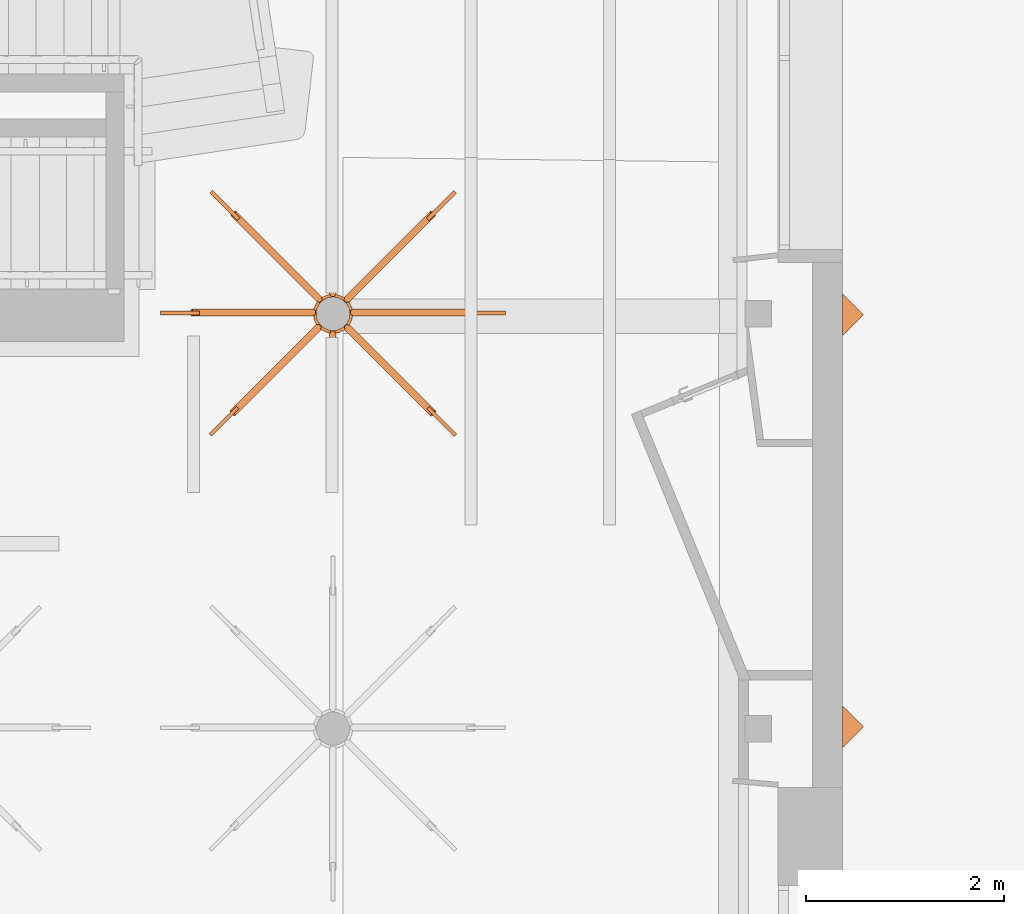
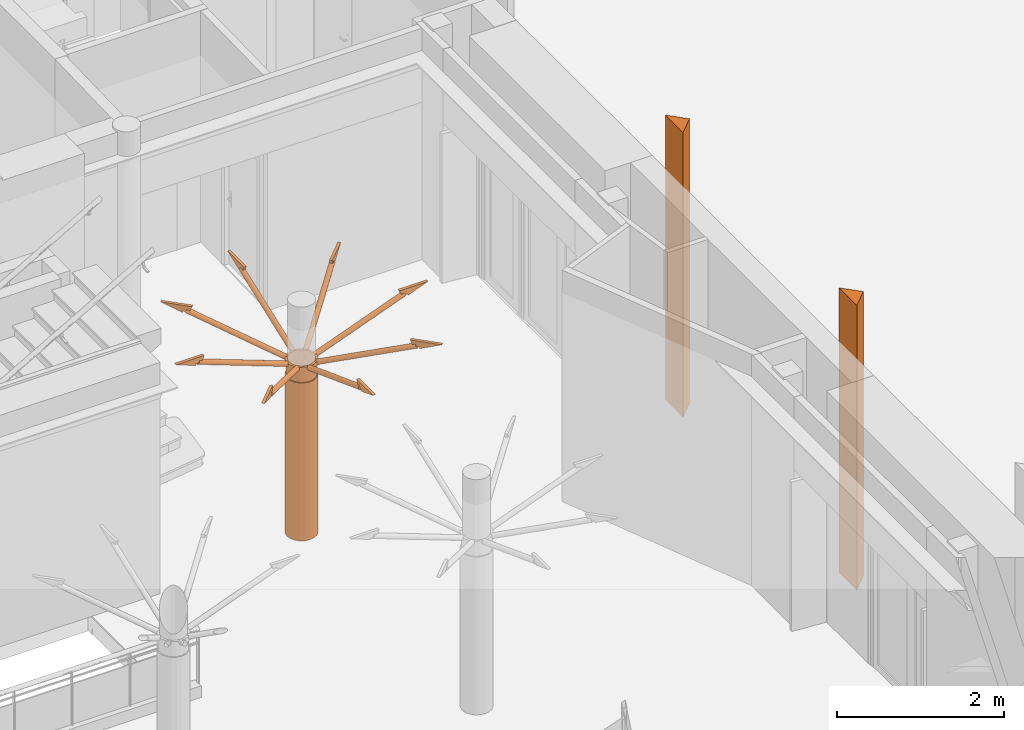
# One storey, part 63 of 65: 3 proxies.
"""IFC4 building model written with IfcOpenShell, lengths in metres."""

from ifc_helpers import new_model, entity, si_unit, converted_unit, derived_unit, direction, frame, origin, place, context, subcontext, project, spatial, indexed_curve, outline, extrude, source, transform, mapped, material, constituent, constituent_set, type_object, type_shapes, element, save


model = new_model("IFC4")

# Units and contexts
model_context = context("Model", 3, precision=1e-05, world=origin(), true_north=direction((6.12303176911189e-17, 1.0)))
body_context = subcontext(model_context, "Body", "Model", "MODEL_VIEW")
ifc_project = project(units=[si_unit("LENGTHUNIT", "METRE"), si_unit("AREAUNIT", "SQUARE_METRE"), si_unit("VOLUMEUNIT", "CUBIC_METRE"), converted_unit("PLANEANGLEUNIT", "DEGREE", entity("IfcRatioMeasure", 0.0174532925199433), si_unit("PLANEANGLEUNIT", "RADIAN"), dimensions=[0, 0, 0, 0, 0, 0, 0]), si_unit("MASSUNIT", "GRAM", prefix="KILO"), derived_unit("MASSDENSITYUNIT", [(si_unit("MASSUNIT", "GRAM", prefix="KILO"), 1), (si_unit("LENGTHUNIT", "METRE"), -3)]), derived_unit("MOMENTOFINERTIAUNIT", [(si_unit("LENGTHUNIT", "METRE"), 4)]), si_unit("TIMEUNIT", "SECOND"), si_unit("FREQUENCYUNIT", "HERTZ"), si_unit("THERMODYNAMICTEMPERATUREUNIT", "DEGREE_CELSIUS"), derived_unit("THERMALTRANSMITTANCEUNIT", [(si_unit("MASSUNIT", "GRAM", prefix="KILO"), 1), (si_unit("THERMODYNAMICTEMPERATUREUNIT", "KELVIN"), -1), (si_unit("TIMEUNIT", "SECOND"), -3)]), derived_unit("VOLUMETRICFLOWRATEUNIT", [(si_unit("LENGTHUNIT", "METRE"), 3), (si_unit("TIMEUNIT", "SECOND"), -1)]), si_unit("ELECTRICCURRENTUNIT", "AMPERE"), si_unit("ELECTRICVOLTAGEUNIT", "VOLT"), si_unit("POWERUNIT", "WATT"), si_unit("FORCEUNIT", "NEWTON", prefix="KILO"), si_unit("ILLUMINANCEUNIT", "LUX"), si_unit("LUMINOUSFLUXUNIT", "LUMEN"), si_unit("LUMINOUSINTENSITYUNIT", "CANDELA"), derived_unit("USERDEFINED", [(si_unit("MASSUNIT", "GRAM", prefix="KILO"), -1), (si_unit("LENGTHUNIT", "METRE"), -2), (si_unit("TIMEUNIT", "SECOND"), 3), (si_unit("LUMINOUSFLUXUNIT", "LUMEN"), 1)]), derived_unit("LINEARVELOCITYUNIT", [(si_unit("LENGTHUNIT", "METRE"), 1), (si_unit("TIMEUNIT", "SECOND"), -1)]), si_unit("PRESSUREUNIT", "PASCAL"), derived_unit("USERDEFINED", [(si_unit("LENGTHUNIT", "METRE"), -2), (si_unit("MASSUNIT", "GRAM", prefix="KILO"), 1), (si_unit("TIMEUNIT", "SECOND"), -2)]), derived_unit("LINEARFORCEUNIT", [(si_unit("MASSUNIT", "GRAM", prefix="KILO"), 1), (si_unit("LENGTHUNIT", "METRE"), 1), (si_unit("TIMEUNIT", "SECOND"), -2), (si_unit("LENGTHUNIT", "METRE"), -1)]), derived_unit("PLANARFORCEUNIT", [(si_unit("MASSUNIT", "GRAM", prefix="KILO"), 1), (si_unit("LENGTHUNIT", "METRE"), 1), (si_unit("TIMEUNIT", "SECOND"), -2), (si_unit("LENGTHUNIT", "METRE"), -2)])], contexts=[model_context])

# Site, building, storey
site_placement = place(None, origin())
site = spatial("IfcSite", under=ifc_project, at=site_placement, Name="Default", CompositionType="ELEMENT")
building_placement = place(site_placement, origin())
building = spatial("IfcBuilding", under=site, at=building_placement, Name="HOTEL CONSULAIRE BOULOGNE SUR MER", CompositionType="ELEMENT")
storey_placement = place(building_placement, origin())
storey = spatial("IfcBuildingStorey", under=building, at=storey_placement, Name="Niveau 0", CompositionType="ELEMENT", Elevation=1.31981936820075e-13)

# Proxies
ifc_material_1 = material(Name="Bronze", Category="Métal")
ifc_constituent_1 = constituent(ifc_material_1, Name="Bronze", Category="Matériaux")
ifc_material_2 = material(Name="Acier, carbone", Category="Métal")
ifc_constituent_2 = constituent(ifc_material_2, Name="Acier, carbone", Category="Matériaux")
ifc_constituent_set = constituent_set(constituents=[ifc_constituent_1, ifc_constituent_2], Name="MaterialConstituentSet")
building_element_proxy_type_1 = type_object("IfcBuildingElementProxyType", Name="Modèles génériques 4:Modèles génériques 1", PredefinedType="NOTDEFINED", material=ifc_material_1)
shared_shape_1 = source(origin(), body_context, "Body", "SweptSolid", [
    extrude(outline(indexed_curve([(-0.277248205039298, -0.059776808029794), (0.115160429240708, -0.059776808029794), (0.0851913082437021, 0.0182954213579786), (0.0431801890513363, 0.00216886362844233), (0.0317934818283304, 0.0318322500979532), (0.00544099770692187, 0.0219587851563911), (-0.00351820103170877, 0.0452982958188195), (-0.277248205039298, -0.059776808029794)], self_intersect=False)), frame((0.713250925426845, 0.701500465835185, 2.99602341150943), z_axis=(-0.70710678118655, 0.707106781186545, 0.0), x_axis=(0.707106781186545, 0.70710678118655, 0.0)), (0.0, 0.0, 1.0), 0.03781952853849),
    extrude(outline(indexed_curve([(0.035, -1.04985600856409e-15), (0.0332869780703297, 0.0108155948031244), (0.028315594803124, 0.0205724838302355), (0.0205724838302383, 0.0283155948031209), (0.0108155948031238, 0.0332869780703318), (1.1197790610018e-15, 0.0350000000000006), (-0.0108155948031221, 0.0332869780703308), (-0.0205724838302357, 0.028315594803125), (-0.0283155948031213, 0.0205724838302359), (-0.0332869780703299, 0.0108155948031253), (-0.0349999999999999, 1.43372394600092e-15), (-0.0332869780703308, -0.0108155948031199), (-0.028315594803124, -0.0205724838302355), (-0.0205724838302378, -0.0283155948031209), (-0.0108155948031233, -0.0332869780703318), (-6.12763902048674e-16, -0.0350000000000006), (0.0108155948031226, -0.0332869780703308), (0.0205724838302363, -0.0283155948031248), (0.0283155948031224, -0.0205724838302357), (0.0332869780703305, -0.0108155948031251), (0.035, -1.04985600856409e-15)], self_intersect=False)), frame((0.728885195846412, 0.739260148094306, 2.98010318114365), z_axis=(0.662156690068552, 0.662156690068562, -0.350851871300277), x_axis=(-0.248089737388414, -0.248089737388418, -0.936430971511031)), (0.0, 0.0, 1.0), 1.32737404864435),
    extrude(outline(indexed_curve([(-0.280255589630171, -0.0435504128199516), (0.0129489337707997, -0.0435504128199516), (0.0129489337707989, -0.0185504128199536), (0.0410894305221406, -0.018324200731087), (0.0410894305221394, 0.0134495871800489), (0.0860894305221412, 0.013449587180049), (0.0860894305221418, 0.0970762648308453), (-0.280255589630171, -0.0435504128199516)], self_intersect=False)), frame((1.7274101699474, 0.277248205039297, 2.99602341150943), z_axis=(1.0, 0.0, 0.0), x_axis=(0.0, 0.933580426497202, -0.358367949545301)), (0.0, 0.0, 1.0), 0.0378195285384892),
    extrude(outline(indexed_curve([(0.0349999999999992, 8.67182975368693e-17), (0.0332869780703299, 0.0108155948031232), (0.0283155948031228, 0.0205724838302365), (0.0205724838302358, 0.0283155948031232), (0.0108155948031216, 0.0332869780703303), (-5.93728164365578e-16, 0.035), (-0.0108155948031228, 0.0332869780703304), (-0.0205724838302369, 0.0283155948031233), (-0.0283155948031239, 0.0205724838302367), (-0.0332869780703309, 0.0108155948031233), (-0.0349999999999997, 1.83998484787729e-16), (-0.0332869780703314, -0.0108155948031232), (-0.0283155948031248, -0.0205724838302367), (-0.0205724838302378, -0.0283155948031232), (-0.0108155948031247, -0.0332869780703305), (-9.27317312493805e-16, -0.0349999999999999), (0.0108155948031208, -0.0332869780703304), (0.0205724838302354, -0.0283155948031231), (0.0283155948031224, -0.0205724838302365), (0.0332869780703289, -0.010815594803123), (0.0349999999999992, 8.67182975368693e-17)], self_intersect=False)), frame((1.74305519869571, 1.5579976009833, 2.51439151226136), z_axis=(0.0, -0.936430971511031, 0.350851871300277), x_axis=(0.0, -0.350851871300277, -0.936430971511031)), (0.0, 0.0, 1.0), 1.32737404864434),
    extrude(outline(indexed_curve([(-0.280255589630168, -0.0435504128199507), (0.0129489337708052, -0.0435504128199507), (0.0129489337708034, -0.0185504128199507), (0.0410894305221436, -0.0183242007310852), (0.0410894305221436, 0.0134495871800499), (0.0860894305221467, 0.0134495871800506), (0.0860894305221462, 0.097076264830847), (-0.280255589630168, -0.0435504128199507)], self_intersect=False)), frame((2.77607438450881, 0.699368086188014, 2.99602341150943), z_axis=(0.707106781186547, 0.707106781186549, 0.0), x_axis=(-0.6601410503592, 0.660141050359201, -0.358367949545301)), (0.0, 0.0, 1.0), 0.03781952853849),
    extrude(outline(indexed_curve([(0.035, -1.04985600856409e-15), (0.033286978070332, 0.0108155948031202), (0.028315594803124, 0.0205724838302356), (0.0205724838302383, 0.028315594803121), (0.0108155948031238, 0.0332869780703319), (1.186400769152e-15, 0.0350000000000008), (-0.0108155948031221, 0.033286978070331), (-0.0205724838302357, 0.028315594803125), (-0.0283155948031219, 0.0205724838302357), (-0.0332869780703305, 0.0108155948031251), (-0.0349999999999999, 1.43372394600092e-15), (-0.0332869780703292, -0.0108155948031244), (-0.0283155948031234, -0.0205724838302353), (-0.0205724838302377, -0.0283155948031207), (-0.0108155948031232, -0.0332869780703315), (-5.45084706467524e-16, -0.0350000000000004), (0.0108155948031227, -0.0332869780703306), (0.0205724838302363, -0.0283155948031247), (0.0283155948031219, -0.0205724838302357), (0.0332869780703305, -0.0108155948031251), (0.035, -1.04985600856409e-15)], self_intersect=False)), frame((1.88151050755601, 1.61605737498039, 2.51439151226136), z_axis=(0.662156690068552, -0.662156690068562, 0.350851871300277), x_axis=(0.248089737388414, -0.248089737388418, -0.936430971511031)), (0.0, 0.0, 1.0), 1.32737404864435),
    extrude(outline(indexed_curve([(-0.277248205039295, -0.0597768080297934), (0.115160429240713, -0.0597768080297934), (0.0851913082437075, 0.0182954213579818), (0.0431801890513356, 0.00216886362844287), (0.031793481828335, 0.0318322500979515), (0.00544099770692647, 0.02195878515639), (-0.00351820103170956, 0.0452982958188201), (-0.277248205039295, -0.0597768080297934)], self_intersect=False)), frame((2.77184292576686, 2.7963210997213, 2.99602341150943), z_axis=(0.707106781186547, -0.707106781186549, 0.0), x_axis=(-0.707106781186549, -0.707106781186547, 0.0)), (0.0, 0.0, 1.0), 0.0378195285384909),
    extrude(outline(indexed_curve([(0.035, 1.16429366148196e-15), (0.03328697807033, 0.0108155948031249), (0.0283155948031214, 0.0205724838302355), (0.0205724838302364, 0.0283155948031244), (0.0108155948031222, 0.0332869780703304), (-1.00451293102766e-15, 0.0350000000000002), (-0.0108155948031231, 0.0332869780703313), (-0.0205724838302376, 0.0283155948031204), (-0.0283155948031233, 0.0205724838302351), (-0.0332869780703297, 0.0108155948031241), (-0.0349999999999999, -1.26052501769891e-15), (-0.03328697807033, -0.0108155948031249), (-0.028315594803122, -0.0205724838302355), (-0.0205724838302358, -0.0283155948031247), (-0.0108155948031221, -0.0332869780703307), (1.10497423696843e-15, -0.0350000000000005), (0.0108155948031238, -0.0332869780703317), (0.0205724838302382, -0.0283155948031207), (0.0283155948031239, -0.0205724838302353), (0.0332869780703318, -0.0108155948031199), (0.035, 1.16429366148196e-15)], self_intersect=False)), frame((1.87727904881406, 1.87963181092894, 2.51439151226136), z_axis=(0.662156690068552, 0.662156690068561, 0.350851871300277), x_axis=(0.248089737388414, 0.248089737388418, -0.936430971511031)), (0.0, 0.0, 1.0), 1.32737404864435),
    extrude(outline(indexed_curve([(-0.277248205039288, -0.0597768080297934), (0.115160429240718, -0.0597768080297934), (0.0851913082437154, 0.0182954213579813), (0.0431801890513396, 0.00216886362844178), (0.0317934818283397, 0.0318322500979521), (0.0054409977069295, 0.0219587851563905), (-0.00351820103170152, 0.045298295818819), (-0.277248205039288, -0.0597768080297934)], self_intersect=False)), frame((1.72741016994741, 3.21418715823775, 2.99602341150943), z_axis=(1.0, 0.0, 0.0), x_axis=(0.0, -1.0, 0.0)), (0.0, 0.0, 1.0), 0.0378195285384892),
    extrude(outline(indexed_curve([(0.0349999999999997, -6.68832189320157e-17), (0.0332869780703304, 0.010815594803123), (0.0283155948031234, 0.0205724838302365), (0.0205724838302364, 0.0283155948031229), (0.0108155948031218, 0.0332869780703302), (6.68779268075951e-17, 0.0349999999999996), (-0.0108155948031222, 0.0332869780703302), (-0.0205724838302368, 0.0283155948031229), (-0.0283155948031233, 0.0205724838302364), (-0.0332869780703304, 0.0108155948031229), (-0.0349999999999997, -2.03833563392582e-16), (-0.0332869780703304, -0.0108155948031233), (-0.0283155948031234, -0.0205724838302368), (-0.0205724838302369, -0.0283155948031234), (-0.0108155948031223, -0.0332869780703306), (-6.68779268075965e-17, -0.0350000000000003), (0.0108155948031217, -0.0332869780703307), (0.0205724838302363, -0.0283155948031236), (0.0283155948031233, -0.0205724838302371), (0.0332869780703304, -0.0108155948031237), (0.0349999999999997, -6.68832189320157e-17)], self_intersect=False)), frame((1.74305519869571, 1.93343776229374, 2.51439151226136), z_axis=(0.0, 0.936430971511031, 0.350851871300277), x_axis=(0.0, 0.350851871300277, -0.936430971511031)), (0.0, 0.0, 1.0), 1.32737404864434),
    extrude(outline(indexed_curve([(-0.277248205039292, -0.059776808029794), (0.115160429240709, -0.059776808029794), (0.0851913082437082, 0.0182954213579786), (0.0431801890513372, 0.00216886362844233), (0.0317934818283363, 0.0318322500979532), (0.005440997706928, 0.0219587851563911), (-0.00351820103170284, 0.0452982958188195), (-0.277248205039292, -0.059776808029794)], self_intersect=False)), frame((0.694971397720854, 2.77170009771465, 2.99602341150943), z_axis=(0.707106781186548, 0.707106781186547, 0.0), x_axis=(0.707106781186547, -0.707106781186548, 0.0)), (0.0, 0.0, 1.0), 0.0378195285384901),
    extrude(outline(indexed_curve([(0.0349999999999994, -1.22011148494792e-15), (0.0332869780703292, 0.0108155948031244), (0.028315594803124, 0.0205724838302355), (0.0205724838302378, 0.0283155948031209), (0.0108155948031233, 0.0332869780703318), (5.94786615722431e-16, 0.0350000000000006), (-0.0108155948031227, 0.0332869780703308), (-0.0205724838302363, 0.0283155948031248), (-0.0283155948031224, 0.0205724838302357), (-0.0332869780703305, 0.0108155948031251), (-0.0350000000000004, 1.22011148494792e-15), (-0.0332869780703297, -0.0108155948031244), (-0.0283155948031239, -0.0205724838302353), (-0.0205724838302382, -0.0283155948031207), (-0.0108155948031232, -0.0332869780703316), (-1.10180177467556e-15, -0.0350000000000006), (0.0108155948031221, -0.0332869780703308), (0.0205724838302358, -0.0283155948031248), (0.0283155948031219, -0.0205724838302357), (0.03328697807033, -0.0108155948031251), (0.0349999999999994, -1.22011148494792e-15)], self_intersect=False)), frame((1.6162777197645, 1.88175325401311, 2.51439151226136), z_axis=(-0.662156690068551, 0.662156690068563, 0.350851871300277), x_axis=(-0.248089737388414, 0.248089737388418, -0.936430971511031)), (0.0, 0.0, 1.0), 1.32737404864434),
    extrude(outline(indexed_curve([(-0.280255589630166, -0.0435504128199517), (0.0129489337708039, -0.0435504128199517), (0.0129489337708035, -0.0185504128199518), (0.0410894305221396, -0.0183242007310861), (0.0410894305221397, 0.0134495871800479), (0.08608943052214, 0.0134495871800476), (0.0860894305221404, 0.0970762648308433), (-0.280255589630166, -0.0435504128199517)], self_intersect=False)), frame((3.21418736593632, 1.73554318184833, 2.99602341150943), z_axis=(0.0, 1.0, 0.0), x_axis=(-0.933580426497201, 0.0, -0.358367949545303)), (0.0, 0.0, 1.0), 0.0378195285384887),
    extrude(outline(indexed_curve([(0.0349999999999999, -4.16541532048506e-17), (0.0332869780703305, 0.0108155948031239), (0.0283155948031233, 0.0205724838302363), (0.0205724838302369, 0.0283155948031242), (0.0108155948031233, 0.0332869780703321), (-5.83659163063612e-18, 0.0350000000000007), (-0.0108155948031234, 0.0332869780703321), (-0.0205724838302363, 0.0283155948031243), (-0.0283155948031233, 0.0205724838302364), (-0.0332869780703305, 0.0108155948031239), (-0.0349999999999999, 4.16541532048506e-17), (-0.0332869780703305, -0.0108155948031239), (-0.0283155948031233, -0.0205724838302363), (-0.0205724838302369, -0.0283155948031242), (-0.0108155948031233, -0.0332869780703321), (5.83659163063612e-18, -0.0350000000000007), (0.0108155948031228, -0.0332869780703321), (0.0205724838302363, -0.0283155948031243), (0.0283155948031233, -0.0205724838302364), (0.0332869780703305, -0.0108155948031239), (0.0349999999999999, -4.16541532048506e-17)], self_intersect=False)), frame((1.93343796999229, 1.75771768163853, 2.51439151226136), z_axis=(0.936430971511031, 0.0, 0.350851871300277), x_axis=(0.350851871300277, 0.0, -0.936430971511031)), (0.0, 0.0, 1.0), 1.32737404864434),
    extrude(outline(indexed_curve([(-0.277248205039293, -0.059776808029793), (0.115160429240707, -0.059776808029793), (0.0851913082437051, 0.0182954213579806), (0.0431801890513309, 0.00216886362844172), (0.0317934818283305, 0.0318322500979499), (0.00544099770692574, 0.0219587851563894), (-0.00351820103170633, 0.0452982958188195), (-0.277248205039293, -0.059776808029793)], self_intersect=False)), frame((0.277248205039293, 1.73554318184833, 2.99602341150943), z_axis=(0.0, 1.0, 0.0), x_axis=(1.0, 0.0, 0.0)), (0.0, 0.0, 1.0), 0.0378195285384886),
    extrude(outline(indexed_curve([(0.0349999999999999, 4.16541532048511e-17), (0.0332869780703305, 0.0108155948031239), (0.0283155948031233, 0.0205724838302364), (0.0205724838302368, 0.0283155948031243), (0.0108155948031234, 0.0332869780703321), (5.33273364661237e-17, 0.0350000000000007), (-0.0108155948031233, 0.0332869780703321), (-0.0205724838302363, 0.0283155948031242), (-0.0283155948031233, 0.0205724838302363), (-0.0332869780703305, 0.0108155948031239), (-0.0349999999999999, -4.16541532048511e-17), (-0.0332869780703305, -0.0108155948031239), (-0.0283155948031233, -0.0205724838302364), (-0.0205724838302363, -0.0283155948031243), (-0.0108155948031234, -0.0332869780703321), (4.16541532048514e-17, -0.0350000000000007), (0.0108155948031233, -0.0332869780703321), (0.0205724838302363, -0.0283155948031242), (0.0283155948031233, -0.0205724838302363), (0.0332869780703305, -0.0108155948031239), (0.0349999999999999, 4.16541532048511e-17)], self_intersect=False)), frame((1.55799760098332, 1.75771768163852, 2.51439151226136), z_axis=(-0.936430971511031, 0.0, 0.350851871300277), x_axis=(-0.350851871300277, 0.0, -0.936430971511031)), (0.0, 0.0, 1.0), 1.32737404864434),
    extrude(outline(indexed_curve([(0.199999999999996, 0.0), (0.190211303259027, 0.0618033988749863), (0.161803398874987, 0.11755705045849), (0.117557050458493, 0.161803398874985), (0.0618033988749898, 0.190211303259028), (2.16573425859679e-15, 0.199999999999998), (-0.0618033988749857, 0.190211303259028), (-0.11755705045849, 0.16180339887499), (-0.161803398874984, 0.117557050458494), (-0.190211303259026, 0.0618033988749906), (-0.199999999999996, 4.33146851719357e-15), (-0.190211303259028, -0.0618033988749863), (-0.161803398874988, -0.11755705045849), (-0.117557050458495, -0.161803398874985), (-0.0618033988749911, -0.190211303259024), (-2.97788460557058e-15, -0.199999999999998), (0.0618033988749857, -0.190211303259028), (0.11755705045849, -0.161803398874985), (0.161803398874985, -0.117557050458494), (0.190211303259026, -0.0618033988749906), (0.199999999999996, 0.0)], self_intersect=False), holes=[indexed_curve([(-0.169999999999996, 0.0), (-0.161679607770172, 0.0525328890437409), (-0.137532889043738, 0.0999234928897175), (-0.0999234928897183, 0.137532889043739), (-0.0525328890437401, 0.161679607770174), (-5.41433564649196e-16, 0.169999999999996), (0.0525328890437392, 0.161679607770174), (0.0999234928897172, 0.137532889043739), (0.137532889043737, 0.0999234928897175), (0.161679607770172, 0.0525328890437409), (0.169999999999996, 0.0), (0.161679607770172, -0.0525328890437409), (0.137532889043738, -0.0999234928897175), (0.0999234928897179, -0.137532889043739), (0.0525328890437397, -0.161679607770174), (0.0, -0.169999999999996), (-0.0525328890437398, -0.161679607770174), (-0.0999234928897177, -0.137532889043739), (-0.137532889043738, -0.0999234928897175), (-0.161679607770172, -0.0525328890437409), (-0.169999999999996, 0.0)], self_intersect=False)]), frame((1.74571778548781, 1.74571768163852, 2.46815840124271)), (0.0, 0.0, 1.0), 0.073394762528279),
    extrude(outline(indexed_curve([(-0.184999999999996, 0.0), (-0.175945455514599, -0.0571681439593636), (-0.149668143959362, -0.108740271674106), (-0.108740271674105, -0.14966814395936), (-0.0571681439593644, -0.175945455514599), (-8.12150346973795e-16, -0.184999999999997), (0.0571681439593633, -0.175945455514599), (0.108740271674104, -0.149668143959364), (0.149668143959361, -0.108740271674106), (0.175945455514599, -0.0571681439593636), (0.184999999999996, 0.0), (0.175945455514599, 0.0571681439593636), (0.149668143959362, 0.108740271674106), (0.108740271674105, 0.14966814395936), (0.057168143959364, 0.175945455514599), (0.0, 0.184999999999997), (-0.0571681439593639, 0.175945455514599), (-0.108740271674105, 0.14966814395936), (-0.149668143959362, 0.108740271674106), (-0.175945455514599, 0.0571681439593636), (-0.184999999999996, 0.0)], self_intersect=False), holes=[indexed_curve([(0.169999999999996, 0.0), (0.161679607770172, -0.0525328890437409), (0.137532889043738, -0.0999234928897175), (0.0999234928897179, -0.137532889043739), (0.0525328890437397, -0.161679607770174), (0.0, -0.169999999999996), (-0.0525328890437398, -0.161679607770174), (-0.0999234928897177, -0.137532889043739), (-0.137532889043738, -0.0999234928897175), (-0.161679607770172, -0.0525328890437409), (-0.169999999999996, 0.0), (-0.161679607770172, 0.0525328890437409), (-0.137532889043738, 0.0999234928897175), (-0.0999234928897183, 0.137532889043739), (-0.0525328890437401, 0.161679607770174), (-5.41433564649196e-16, 0.169999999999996), (0.0525328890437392, 0.161679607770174), (0.0999234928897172, 0.137532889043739), (0.137532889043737, 0.0999234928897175), (0.161679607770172, 0.0525328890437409), (0.169999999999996, 0.0)], self_intersect=False)]), frame((1.74571778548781, 1.74571768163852, 2.31091744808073)), (0.0, 0.0, 1.0), 0.15724095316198),
    extrude(outline(indexed_curve([(0.199999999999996, 0.0), (0.190211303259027, 0.0618033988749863), (0.161803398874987, 0.11755705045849), (0.117557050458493, 0.161803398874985), (0.0618033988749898, 0.190211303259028), (2.16573425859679e-15, 0.199999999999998), (-0.0618033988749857, 0.190211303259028), (-0.11755705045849, 0.16180339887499), (-0.161803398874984, 0.117557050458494), (-0.190211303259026, 0.0618033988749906), (-0.199999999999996, 4.33146851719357e-15), (-0.190211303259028, -0.0618033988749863), (-0.161803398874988, -0.11755705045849), (-0.117557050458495, -0.161803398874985), (-0.0618033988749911, -0.190211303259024), (-2.97788460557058e-15, -0.199999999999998), (0.0618033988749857, -0.190211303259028), (0.11755705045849, -0.161803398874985), (0.161803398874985, -0.117557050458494), (0.190211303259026, -0.0618033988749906), (0.199999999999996, 0.0)], self_intersect=False), holes=[indexed_curve([(-0.169999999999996, 0.0), (-0.161679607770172, 0.0525328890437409), (-0.137532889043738, 0.0999234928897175), (-0.0999234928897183, 0.137532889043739), (-0.0525328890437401, 0.161679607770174), (-5.41433564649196e-16, 0.169999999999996), (0.0525328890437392, 0.161679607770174), (0.0999234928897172, 0.137532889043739), (0.137532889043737, 0.0999234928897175), (0.161679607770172, 0.0525328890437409), (0.169999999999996, 0.0), (0.161679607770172, -0.0525328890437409), (0.137532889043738, -0.0999234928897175), (0.0999234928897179, -0.137532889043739), (0.0525328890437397, -0.161679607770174), (0.0, -0.169999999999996), (-0.0525328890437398, -0.161679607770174), (-0.0999234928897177, -0.137532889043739), (-0.137532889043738, -0.0999234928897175), (-0.161679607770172, -0.0525328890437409), (-0.169999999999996, 0.0)], self_intersect=False)]), frame((1.74571778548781, 1.74571768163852, 0.0)), (0.0, 0.0, 1.0), 2.31091744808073),
])
type_shapes(building_element_proxy_type_1, [shared_shape_1])
proxy_1_placement = place(storey_placement, frame((5.42545898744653, -21.5616274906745, 0.0)))
element("IfcBuildingElementProxy", 1, at=proxy_1_placement, inside=storey, type_object=building_element_proxy_type_1, material=ifc_constituent_set, Name="Modèles génériques 4:Modèles génériques 1", ObjectType="Modèles génériques 4:Modèles génériques 1", PredefinedType="NOTDEFINED", context=body_context, shape_type="MappedRepresentation", body=[
    mapped(shared_shape_1, transform((0.0, 0.0, 0.0), scale=1.0)),
])
ifc_material_3 = material(Name="Finition Peinture - Blanc satiné", Category="Peinture")
building_element_proxy_type_2 = type_object("IfcBuildingElementProxyType", Name="décoration7:décoration", PredefinedType="NOTDEFINED", material=ifc_material_3)
shared_shape_2 = source(origin(), body_context, "Body", "SweptSolid", [
    extrude(outline(indexed_curve([(-0.200958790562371, -0.10047939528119), (0.10047939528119, -0.10047939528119), (0.100479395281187, 0.200958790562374), (-0.200958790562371, -0.10047939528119)], self_intersect=False)), frame((0.0710496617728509, 0.213148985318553, 0.0), z_axis=(0.0, 0.0, 1.0), x_axis=(0.707106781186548, 0.707106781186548, 0.0)), (0.0, 0.0, 1.0), 4.16807531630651),
])
type_shapes(building_element_proxy_type_2, [shared_shape_2])
proxy_2_placement = place(storey_placement, frame((12.3264778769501, -20.0377774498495, 0.0)))
element("IfcBuildingElementProxy", 2, at=proxy_2_placement, inside=storey, type_object=building_element_proxy_type_2, material=ifc_material_3, Name="décoration7:décoration", ObjectType="décoration7:décoration", PredefinedType="NOTDEFINED", context=body_context, shape_type="MappedRepresentation", body=[
    mapped(shared_shape_2, transform((0.0, 0.0, 0.0), scale=1.0)),
])
building_element_proxy_type_3 = type_object("IfcBuildingElementProxyType", Name="décoration8:décoration", PredefinedType="NOTDEFINED", material=ifc_material_3)
shared_shape_3 = source(origin(), body_context, "Body", "SweptSolid", [
    extrude(outline(indexed_curve([(-0.200958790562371, -0.10047939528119), (0.10047939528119, -0.10047939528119), (0.100479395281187, 0.200958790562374), (-0.200958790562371, -0.10047939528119)], self_intersect=False)), frame((0.0710496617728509, 0.213148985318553, 0.0), z_axis=(0.0, 0.0, 1.0), x_axis=(0.707106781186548, 0.707106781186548, 0.0)), (0.0, 0.0, 1.0), 4.16807531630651),
])
type_shapes(building_element_proxy_type_3, [shared_shape_3])
proxy_3_placement = place(storey_placement, frame((12.3264778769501, -24.209040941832, 0.0)))
element("IfcBuildingElementProxy", 3, at=proxy_3_placement, inside=storey, type_object=building_element_proxy_type_3, material=ifc_material_3, Name="décoration8:décoration", ObjectType="décoration8:décoration", PredefinedType="NOTDEFINED", context=body_context, shape_type="MappedRepresentation", body=[
    mapped(shared_shape_3, transform((0.0, 0.0, 0.0), scale=1.0)),
])

save(model, "model.ifc")
